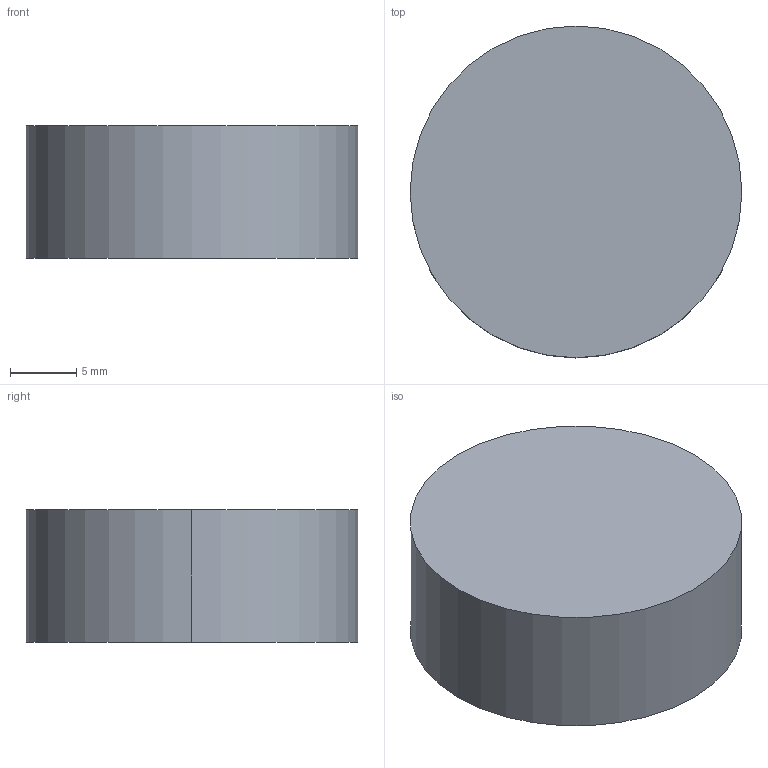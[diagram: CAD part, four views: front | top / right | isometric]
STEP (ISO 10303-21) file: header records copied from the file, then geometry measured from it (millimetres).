
FILE_DESCRIPTION (( 'STEP AP203' ), '1' );
FILE_NAME ('drp-250.STEP', '2021-10-21T07:52:58', ( '' ), ( '' ), 'SwSTEP 2.0', 'SolidWorks 2020', '' );
FILE_SCHEMA (( 'CONFIG_CONTROL_DESIGN' ));
Length unit declared in the file: millimetre
Products named in the file (1): drp-250
Bounding box: 25 x 25 x 10 mm (x, y, z)
Volume: 4767.4 mm3; surface area: 1861.4 mm2
Topology: 1 solids, 1 shells, 7 faces, 12 edges, 8 vertices
Faces by surface type: cylinder 4, plane 3
Entity records: 251 total; most frequent: DIRECTION 36, CARTESIAN_POINT 28, ORIENTED_EDGE 24, AXIS2_PLACEMENT_3D 16, EDGE_CURVE 12, EDGE_LOOP 8, VERTEX_POINT 8, CIRCLE 8
